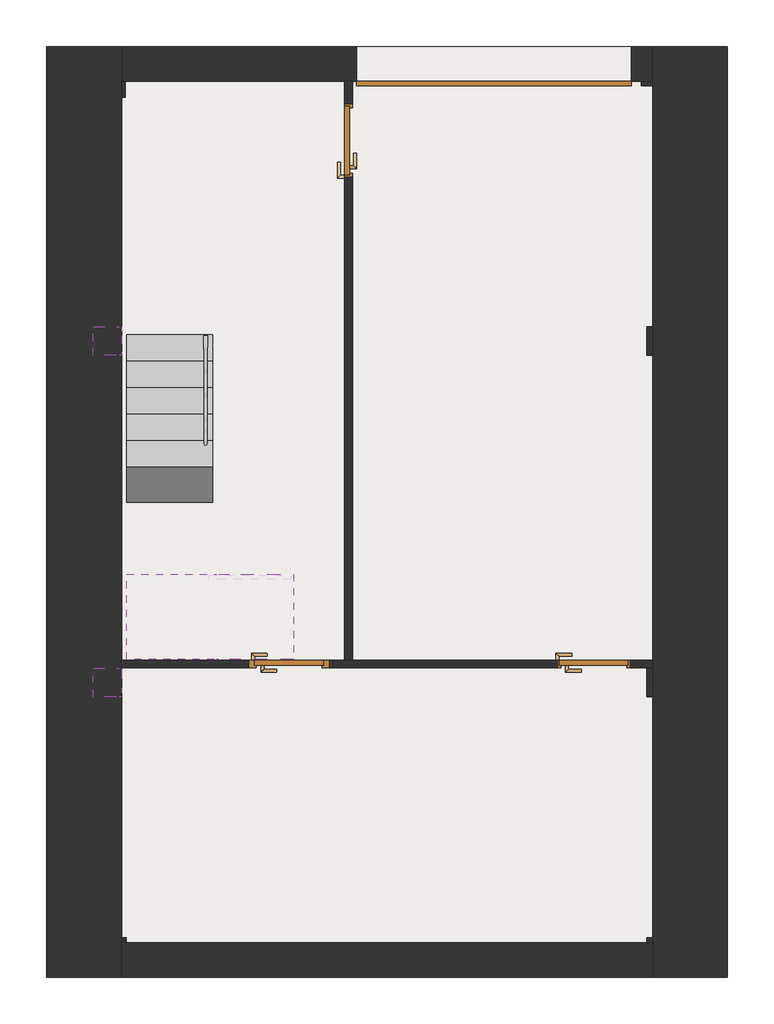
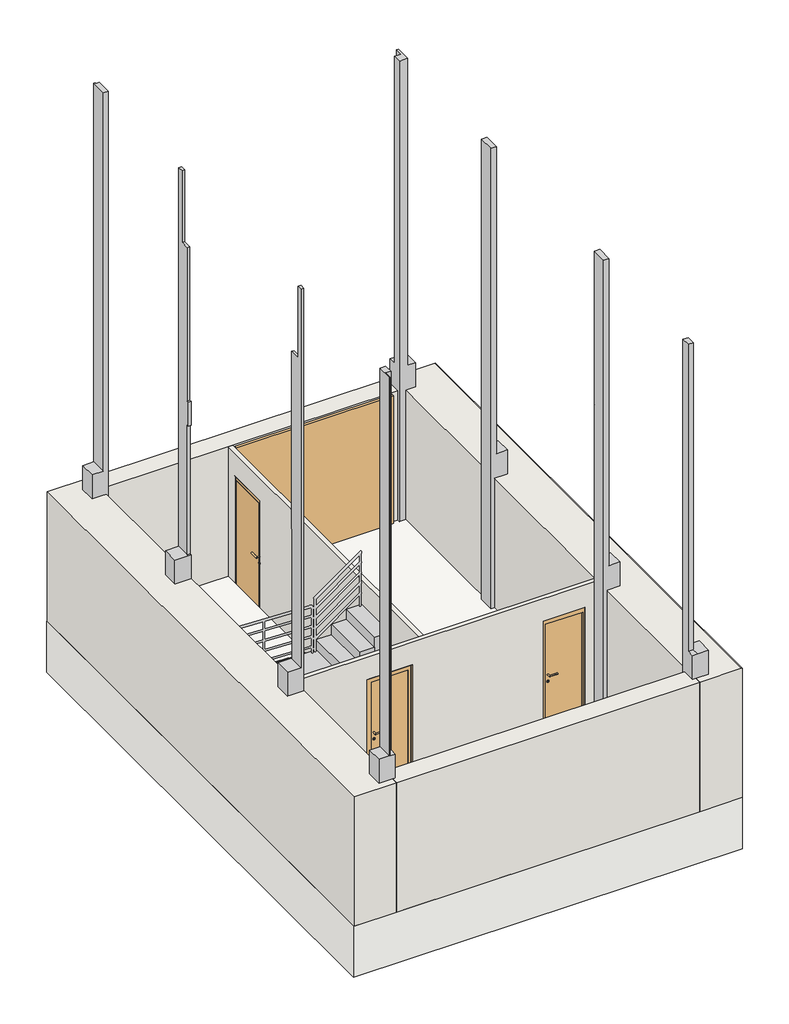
# One storey, part 1 of 2: 8 columns, 6 walls, 4 doors, 2 stair flights, 1 slab.
"""IFC4 building model written with IfcOpenShell, lengths in millimetres."""

from ifc_helpers import new_model, si_unit, frame, origin, origin_with_axes, place, context, project, spatial, polyline, outline, extrude, faceted_brep, transform, mapped, element, save
from components import door_2435_x_1981mm_4eedffcc, door_72_5_x_203_cm_b813763c

model = new_model("IFC4")

# Units and contexts
model_context = context("Model", 3, world=origin())
ifc_project = project(units=[si_unit("LENGTHUNIT", "METRE", prefix="MILLI")], contexts=[model_context])

# Site, building, storey
site = spatial("IfcSite", under=ifc_project)
building = spatial("IfcBuilding", under=site)
storey = spatial("IfcBuildingStorey", under=building, Name="SÓTANO", Elevation=1000.0)

# Columns
placement = place(None, origin())
element("IfcColumn", 1, ObjectType="Pilar rectangular : 300 x 300mm 2", at=placement, inside=storey, context=model_context, shape_type="Brep", body=[
    faceted_brep([(-6960.2380085, -6796.794526, 11400.0), (-6869.4740076, -6796.794526, 11400.0), (-6869.4740076, -6516.7945269, 11400.0), (-6940.7380085, -6516.7945269, 11400.0), (-6940.7380085, -6496.794526, 11400.0), (-6960.2380085, -6496.794526, 11400.0), (-6869.4740076, -6796.794526, 1000.0), (-7169.4740076, -6796.794526, 1000.0), (-7169.4740076, -6496.794526, 1000.0), (-6905.2380085, -6496.794526, 1000.0), (-6905.2380085, -6626.7945269, 1000.0), (-6869.4740076, -6626.7945269, 1000.0), (-7169.4740076, -6496.794526, 4000.0), (-6960.2380085, -6496.794526, 4000.0), (-6940.7380085, -6496.794526, 4000.0), (-6869.4740076, -6496.794526, 4000.0), (-6869.4740076, -6496.794526, 3530.0), (-6905.2380085, -6496.794526, 3530.0), (-7169.4740076, -6796.794526, 4000.0), (-6960.2380085, -6796.794526, 4000.0), (-6869.4740076, -6626.7945269, 3530.0), (-6869.4740076, -6516.7945269, 4000.0), (-6905.2380085, -6626.7945269, 3530.0), (-6940.7380085, -6516.7945269, 4000.0)], [[[0, 1, 2, 3, 4, 5]], [[6, 7, 8, 9, 10, 11]], [[9, 8, 12, 13, 5, 4, 14, 15, 16, 17]], [[8, 7, 18, 12]], [[7, 6, 1, 0, 19, 18]], [[1, 6, 11, 20, 16, 15, 21, 2]], [[19, 0, 5, 13]], [[18, 19, 13, 12]], [[11, 10, 22, 20]], [[23, 3, 2, 21]], [[23, 21, 15, 14]], [[22, 10, 9, 17]], [[20, 22, 17, 16]], [[3, 23, 14, 4]]]),
])
element("IfcColumn", 2, ObjectType="Pilar rectangular : 300 x 300mm 2", at=placement, inside=storey, context=model_context, shape_type="Brep", body=[
    faceted_brep([(-6960.2380085, -9220.2061626, 11400.0), (-6960.2380085, -9317.7974399, 11400.0), (-6960.2380085, -9318.4505332, 11400.0), (-6909.4740076, -9318.4505332, 11400.0), (-6909.4740076, -9220.2061626, 11400.0), (-6960.2380085, -9220.2061626, 4000.0), (-6909.4740076, -9220.2061626, 3530.0), (-7209.4740076, -9220.2061626, 3530.0), (-7209.4740076, -9220.2061626, 4000.0), (-7209.4740076, -9520.2061626, 4000.0), (-7209.4740076, -9520.2061626, 3530.0), (-6909.4740076, -9482.9701634, 7000.0), (-6909.4740076, -9520.2061626, 7000.0), (-6909.4740076, -9520.2061626, 6530.0), (-6909.4740076, -9488.9701632, 6530.0), (-6909.4740076, -9488.9701632, 4000.0), (-6909.4740076, -9520.2061626, 4000.0), (-6909.4740076, -9520.2061626, 3530.0), (-6909.4740076, -9318.4505332, 10000.0), (-6909.4740076, -9482.9701634, 10000.0), (-6960.2380085, -9482.9701634, 7000.0), (-6960.2380085, -9520.2061626, 7000.0), (-6960.2380085, -9488.9701632, 4000.0), (-6960.2380085, -9488.9701632, 6530.0), (-6960.2380085, -9520.2061626, 4000.0), (-6960.2380085, -9520.2061626, 6530.0), (-6960.2380085, -9482.9701634, 10000.0), (-6960.2380085, -9318.4505332, 10000.0)], [[[0, 1, 2, 3, 4]], [[5, 0, 4, 6, 7, 8]], [[9, 8, 7, 10]], [[11, 12, 13, 14, 15, 16, 17, 6, 4, 3, 18, 19]], [[12, 11, 20, 21]], [[22, 15, 14, 23]], [[15, 22, 24, 16]], [[22, 23, 25, 21, 20, 26, 27, 2, 1, 0, 5]], [[5, 8, 9, 24, 22]], [[27, 18, 3, 2]], [[18, 27, 26, 19]], [[20, 11, 19, 26]], [[12, 21, 25, 13]], [[16, 24, 9, 10, 17]], [[23, 14, 13, 25]], [[7, 6, 17, 10]]]),
])
element("IfcColumn", 3, ObjectType="Pilar rectangular : 300 x 300mm 2", at=placement, inside=storey, context=model_context, shape_type="Brep", body=[
    faceted_brep([(-6909.4740076, -13129.734164, 11400.0), (-6909.4740076, -13040.2974399, 11400.0), (-6960.2380085, -13040.2974399, 11400.0), (-6960.2380085, -13129.734164, 11400.0), (-6960.2380085, -12829.734164, 7000.0), (-6909.4740076, -12829.734164, 7000.0), (-6909.4740076, -12829.734164, 6530.0), (-6960.2380085, -12829.734164, 6530.0), (-7209.4740076, -13129.734164, 4000.0), (-7209.4740076, -12829.734164, 4000.0), (-7209.4740076, -12829.734164, 3530.0), (-7209.4740076, -13129.734164, 3530.0), (-6960.2380085, -13129.734164, 4000.0), (-6909.4740076, -13129.734164, 3530.0), (-6909.4740076, -12829.734164, 3530.0), (-6909.4740076, -12829.734164, 4000.0), (-6909.4740076, -12839.9701634, 4000.0), (-6909.4740076, -12839.9701634, 6530.0), (-6909.4740076, -12830.9701634, 7000.0), (-6909.4740076, -12830.9701634, 10000.0), (-6909.4740076, -13040.2974399, 10000.0), (-6960.2380085, -13040.2974399, 10000.0), (-6960.2380085, -12830.9701634, 10000.0), (-6960.2380085, -12830.9701634, 7000.0), (-6960.2380085, -12839.9701634, 6530.0), (-6960.2380085, -12839.9701634, 4000.0), (-6960.2380085, -12829.734164, 4000.0)], [[[0, 1, 2, 3]], [[4, 5, 6, 7]], [[8, 9, 10, 11]], [[3, 12, 8, 11, 13, 0]], [[1, 0, 13, 14, 15, 16, 17, 6, 5, 18, 19, 20]], [[12, 3, 2, 21, 22, 23, 4, 7, 24, 25]], [[8, 12, 25, 26, 9]], [[21, 20, 19, 22]], [[19, 18, 23, 22]], [[18, 5, 4, 23]], [[16, 25, 24, 17]], [[25, 16, 15, 26]], [[20, 21, 2, 1]], [[17, 24, 7, 6]], [[9, 26, 15, 14, 10]], [[10, 14, 13, 11]]]),
])
element("IfcColumn", 4, ObjectType="Pilar rectangular : 300 x 300mm 2", at=placement, inside=storey, context=model_context, shape_type="Brep", body=[
    faceted_brep([(-1359.1530766, -13129.734164, 10000.0), (-1259.1530766, -13129.734164, 10000.0), (-1259.1530766, -12830.9701634, 10000.0), (-1359.1530766, -12830.9701634, 10000.0), (-1359.1530766, -13129.734164, 1000.0), (-1359.1530766, -12829.734164, 1000.0), (-1294.1530766, -12829.734164, 1000.0), (-1294.1530766, -13129.734164, 1000.0), (-1259.1530766, -12829.734164, 4000.0), (-1059.1530766, -12829.734164, 4000.0), (-1059.1530766, -12829.734164, 3530.0), (-1294.1530766, -12829.734164, 3530.0), (-1359.1530766, -12829.734164, 7000.0), (-1259.1530766, -12829.734164, 7000.0), (-1359.1530766, -12830.9701634, 7000.0), (-1294.1530766, -13129.734164, 3530.0), (-1059.1530766, -13129.734164, 3530.0), (-1059.1530766, -13129.734164, 4000.0), (-1259.1530766, -13129.734164, 4000.0), (-1259.1530766, -12830.9701634, 7000.0)], [[[0, 1, 2, 3]], [[4, 5, 6, 7]], [[8, 9, 10, 11, 6, 5, 12, 13]], [[5, 4, 0, 3, 14, 12]], [[0, 4, 7, 15, 16, 17, 18, 1]], [[9, 17, 16, 10]], [[18, 8, 13, 19, 2, 1]], [[8, 18, 17, 9]], [[7, 6, 11, 15]], [[19, 14, 3, 2]], [[14, 19, 13, 12]], [[15, 11, 10, 16]]]),
])
element("IfcColumn", 5, ObjectType="Pilar rectangular : 300 x 300mm 2", at=placement, inside=storey, context=model_context, shape_type="SweptSolid", body=[
    extrude(outline(polyline([(10000.0, -1359.1530766), (1000.0, -1359.1530766), (1000.0, -1294.1530766), (3530.0, -1294.1530766), (3530.0, -1059.1530766), (4000.0, -1059.1530766), (4000.0, -1259.1530766), (10000.0, -1259.1530766), (10000.0, -1359.1530766)])), frame((0.0, -9520.2061626, 0.0), z_axis=(0.0, 1.0, 0.0), x_axis=(0.0, 0.0, 1.0)), (0.0, 0.0, 1.0), 300.0),
])
element("IfcColumn", 6, ObjectType="Pilar rectangular : 300 x 300mm 2", at=placement, inside=storey, context=model_context, shape_type="Brep", body=[
    faceted_brep([(-1259.1530766, -15673.3817995, 10000.0), (-1359.1530766, -15673.3817995, 10000.0), (-1359.1530766, -15838.1457931, 10000.0), (-1259.1530766, -15838.1457931, 10000.0), (-1359.1530766, -15673.3817995, 1000.0), (-1294.1530766, -15673.3817995, 1000.0), (-1294.1530766, -15728.1457931, 1000.0), (-1359.1530766, -15728.1457931, 1000.0), (-1259.1530766, -15673.3817995, 4000.0), (-1059.1530766, -15673.3817995, 4000.0), (-1059.1530766, -15673.3817995, 3530.0), (-1294.1530766, -15673.3817995, 3530.0), (-1359.1530766, -15728.1457931, 3530.0), (-1359.1530766, -15973.3817995, 3530.0), (-1359.1530766, -15973.3817995, 4000.0), (-1359.1530766, -15838.1457931, 4000.0), (-1259.1530766, -15973.3817995, 4000.0), (-1294.1530766, -15973.3817995, 3530.0), (-1059.1530766, -15973.3817995, 3530.0), (-1059.1530766, -15973.3817995, 4000.0), (-1259.1530766, -15838.1457931, 4000.0), (-1294.1530766, -15728.1457931, 3530.0)], [[[0, 1, 2, 3]], [[4, 5, 6, 7]], [[4, 1, 0, 8, 9, 10, 11, 5]], [[1, 4, 7, 12, 13, 14, 15, 2]], [[16, 14, 13, 17, 18, 19]], [[9, 19, 18, 10]], [[8, 0, 3, 20]], [[9, 8, 20, 16, 19]], [[2, 15, 20, 3]], [[15, 14, 16, 20]], [[5, 11, 21, 6]], [[21, 12, 7, 6]], [[12, 21, 17, 13]], [[11, 10, 18, 17, 21]]]),
])
element("IfcColumn", 7, ObjectType="Pilar rectangular : 300 x 300mm 2", at=placement, inside=storey, context=model_context, shape_type="Brep", body=[
    faceted_brep([(-1414.4496163, -6676.794526, 10000.0), (-1259.1530766, -6676.794526, 10000.0), (-1259.1530766, -6376.794526, 10000.0), (-1290.7380085, -6376.794526, 10000.0), (-1290.7380085, -6516.7945269, 10000.0), (-1414.4496163, -6516.7945269, 10000.0), (-1294.1530766, -6676.794526, 1000.0), (-1414.4496163, -6676.794526, 1000.0), (-1414.4496163, -6626.7945269, 1000.0), (-1294.1530766, -6626.7945269, 1000.0), (-1294.1530766, -6376.794526, 3530.0), (-1414.4496163, -6376.794526, 3530.0), (-1414.4496163, -6376.794526, 4000.0), (-1290.7380085, -6376.794526, 4000.0), (-1259.1530766, -6376.794526, 4000.0), (-1114.4496163, -6376.794526, 4000.0), (-1114.4496163, -6376.794526, 3530.0), (-1414.4496163, -6516.7945269, 4000.0), (-1414.4496163, -6626.7945269, 3530.0), (-1294.1530766, -6676.794526, 3530.0), (-1114.4496163, -6676.794526, 3530.0), (-1114.4496163, -6676.794526, 4000.0), (-1259.1530766, -6676.794526, 4000.0), (-1294.1530766, -6626.7945269, 3530.0), (-1290.7380085, -6516.7945269, 4000.0)], [[[0, 1, 2, 3, 4, 5]], [[6, 7, 8, 9]], [[10, 11, 12, 13, 3, 2, 14, 15, 16]], [[7, 0, 5, 17, 12, 11, 18, 8]], [[0, 7, 6, 19, 20, 21, 22, 1]], [[15, 21, 20, 16]], [[19, 6, 9, 23]], [[9, 8, 18, 23]], [[1, 22, 14, 2]], [[22, 21, 15, 14]], [[23, 18, 11, 10]], [[10, 16, 20, 19, 23]], [[24, 17, 5, 4]], [[17, 24, 13, 12]], [[24, 4, 3, 13]]]),
])
element("IfcColumn", 8, ObjectType="Pilar rectangular : 300 x 300mm 2", at=placement, inside=storey, context=model_context, shape_type="Brep", body=[
    faceted_brep([(-6859.1530766, -15673.3817995, 11400.0), (-6960.2380085, -15673.3817995, 11400.0), (-6960.2380085, -15973.3817995, 11400.0), (-6953.6530766, -15973.3817995, 11400.0), (-6953.6530766, -15838.1457931, 11400.0), (-6859.1530766, -15838.1457931, 11400.0), (-6859.1530766, -15673.3817995, 1000.0), (-6859.1530766, -15728.1457931, 1000.0), (-6905.2380085, -15728.1457931, 1000.0), (-6905.2380085, -15673.3817995, 1000.0), (-6905.2380085, -15673.3817995, 3530.0), (-7159.1530766, -15673.3817995, 3530.0), (-7159.1530766, -15673.3817995, 4000.0), (-6960.2380085, -15673.3817995, 4000.0), (-7159.1530766, -15973.3817995, 4000.0), (-7159.1530766, -15973.3817995, 3530.0), (-6905.2380085, -15973.3817995, 3530.0), (-6859.1530766, -15973.3817995, 3530.0), (-6859.1530766, -15973.3817995, 4000.0), (-6953.6530766, -15973.3817995, 4000.0), (-6960.2380085, -15973.3817995, 4000.0), (-6859.1530766, -15838.1457931, 4000.0), (-6859.1530766, -15728.1457931, 3530.0), (-6905.2380085, -15728.1457931, 3530.0), (-6953.6530766, -15838.1457931, 4000.0)], [[[0, 1, 2, 3, 4, 5]], [[6, 7, 8, 9]], [[0, 6, 9, 10, 11, 12, 13, 1]], [[14, 12, 11, 15]], [[16, 17, 18, 19, 3, 2, 20, 14, 15]], [[6, 0, 5, 21, 18, 17, 22, 7]], [[8, 7, 22, 23]], [[1, 13, 20, 2]], [[13, 12, 14, 20]], [[9, 8, 23, 10]], [[4, 24, 21, 5]], [[21, 24, 19, 18]], [[23, 22, 17, 16]], [[10, 23, 16, 15, 11]], [[24, 4, 3, 19]]]),
])

# Doors
door_2435_x_1981mm_shape = door_2435_x_1981mm_4eedffcc(model_context)
element("IfcDoor", 9, ObjectType="Puerta elevada articulada : 2435 x 1981mm", at=placement, inside=storey, context=model_context, shape_type="MappedRepresentation", body=[
    mapped(door_2435_x_1981mm_shape, transform((-2972.4530766, -6444.2945269, 1000.0), x_axis=(1.0, 0.0, 0.0), y_axis=(0.0, 1.0, 0.0), z_axis=(0.0, 0.0, 1.0))),
])
door_72_5_x_203_cm_shape = door_72_5_x_203_cm_b813763c(model_context)
element("IfcDoor", 10, ObjectType="Puerta abatible ciega con ventilación : 72.5 x 203 cm", at=placement, inside=storey, context=model_context, shape_type="MappedRepresentation", body=[
    mapped(door_72_5_x_203_cm_shape, transform((-1918.2421366, -12784.734164, 1000.0), x_axis=(-1.0, 0.0, 0.0), y_axis=(0.0, -1.0, 0.0), z_axis=(0.0, 0.0, 1.0))),
])
element("IfcDoor", 11, ObjectType="Puerta abatible ciega con ventilación : 72.5 x 203 cm", at=placement, inside=storey, context=model_context, shape_type="MappedRepresentation", body=[
    mapped(door_72_5_x_203_cm_shape, transform((-4509.4740076, -7253.7945269, 1000.0), x_axis=(0.0, -1.0, 0.0), y_axis=(1.0, 0.0, 0.0), z_axis=(0.0, 0.0, 1.0))),
])
element("IfcDoor", 12, ObjectType="Puerta abatible ciega con ventilación : 72.5 x 203 cm", at=placement, inside=storey, context=model_context, shape_type="MappedRepresentation", body=[
    mapped(door_72_5_x_203_cm_shape, transform((-5137.4740076, -12784.734164, 1000.0), x_axis=(-1.0, 0.0, 0.0), y_axis=(0.0, -1.0, 0.0), z_axis=(0.0, 0.0, 1.0))),
])

# Slab
element("IfcSlab", 13, ObjectType="Losa hormigón", at=placement, inside=storey, context=model_context, shape_type="SweptSolid", body=[
    extrude(outline(polyline([(-508.1530766, -6261.7945269), (-508.1530766, -16093.1457931), (-7701.2380085, -16093.1457931), (-7701.2380085, -6261.7945269), (-508.1530766, -6261.7945269)])), origin_with_axes(), (0.0, 0.0, 1.0), 1000.0),
])

# Stair flights
element("IfcStairFlight", 14, ObjectType="Profundidad estructural 150 mm", at=placement, inside=storey, context=model_context, shape_type="Brep", body=[
    faceted_brep([(-5928.4380085, -11833.734164, 3200.0), (-6853.4380085, -11833.734164, 3200.0), (-6853.4380085, -12733.734164, 3200.0), (-5928.4380085, -12733.734164, 3200.0), (-5928.4380085, -11833.734164, 3050.0), (-6853.4380085, -11833.734164, 3050.0), (-6853.4380085, -12733.734164, 3050.0), (-5928.4380085, -12733.734164, 3050.0), (-5928.4380085, -11833.734164, 3400.0), (-5928.4380085, -12733.734164, 3400.0), (-5880.3682505, -12733.734164, 3400.0), (-5648.4380085, -12733.734164, 3400.0), (-5648.4380085, -11833.734164, 3400.0), (-5880.3682505, -11833.734164, 3400.0), (-5648.4380085, -11833.734164, 3215.6644586), (-5880.3682505, -11833.734164, 3050.0), (-5880.3682505, -12733.734164, 3050.0), (-5648.4380085, -12733.734164, 3215.6644586), (-5368.4380085, -11833.734164, 3600.0), (-5648.4380085, -11833.734164, 3600.0), (-5648.4380085, -12733.734164, 3600.0), (-5368.4380085, -12733.734164, 3600.0), (-5368.4380085, -11833.734164, 3415.6644586), (-5368.4380085, -12733.734164, 3415.6644586), (-5088.4380085, -11833.734164, 3800.0), (-5368.4380085, -11833.734164, 3800.0), (-5368.4380085, -12733.734164, 3800.0), (-5088.4380085, -12733.734164, 3800.0), (-5088.4380085, -11833.734164, 3615.6644586), (-5088.4380085, -12733.734164, 3615.6644586)], [[[0, 1, 2, 3]], [[1, 0, 4, 5]], [[2, 1, 5, 6]], [[3, 2, 6, 7]], [[8, 9, 10, 11, 12, 13]], [[0, 8, 13, 12, 14, 15, 4]], [[0, 3, 9, 8]], [[9, 3, 7, 16, 17, 11, 10]], [[18, 19, 20, 21]], [[19, 18, 22, 14, 12]], [[12, 11, 20, 19]], [[21, 20, 11, 17, 23]], [[24, 25, 26, 27]], [[25, 24, 28, 22, 18]], [[18, 21, 26, 25]], [[27, 26, 21, 23, 29]], [[24, 27, 29, 28]], [[15, 16, 7, 6, 5, 4]], [[16, 15, 14, 22, 28, 29, 23, 17]]]),
])
element("IfcStairFlight", 15, ObjectType="Profundidad estructural 150 mm", at=placement, inside=storey, context=model_context, shape_type="Brep", body=[
    faceted_brep([(-5946.7125034, -9585.368546, 1220.0), (-5946.7125034, -9305.368546, 1220.0), (-6854.2125034, -9305.368546, 1220.0), (-6854.2125034, -9585.368546, 1220.0), (-5946.7125034, -9585.368546, 1029.3837063), (-5946.7125034, -9548.0082023, 1000.0), (-5946.7125034, -9305.368546, 1000.0), (-6854.2125034, -9305.368546, 1000.0), (-6854.2125034, -9548.0082023, 1000.0), (-6854.2125034, -9585.368546, 1029.3837063), (-5946.7125034, -9865.368546, 1440.0), (-5946.7125034, -9585.368546, 1440.0), (-6854.2125034, -9585.368546, 1440.0), (-6854.2125034, -9865.368546, 1440.0), (-5946.7125034, -9865.368546, 1249.602177), (-6854.2125034, -9865.368546, 1249.602177), (-5946.7125034, -10145.368546, 1660.0), (-5946.7125034, -9865.368546, 1660.0), (-6854.2125034, -9865.368546, 1660.0), (-6854.2125034, -10145.368546, 1660.0), (-5946.7125034, -10145.368546, 1469.8206477), (-6854.2125034, -10145.368546, 1469.8206477), (-5946.7125034, -10425.368546, 1880.0), (-5946.7125034, -10145.368546, 1880.0), (-6854.2125034, -10145.368546, 1880.0), (-6854.2125034, -10425.368546, 1880.0), (-5946.7125034, -10425.368546, 1690.0391184), (-6854.2125034, -10425.368546, 1690.0391184), (-5946.7125034, -10705.368546, 2100.0), (-5946.7125034, -10425.368546, 2100.0), (-6854.2125034, -10425.368546, 2100.0), (-6854.2125034, -10705.368546, 2100.0), (-5946.7125034, -10705.368546, 1910.2575891), (-6854.2125034, -10705.368546, 1910.2575891), (-5946.7125034, -10985.368546, 2320.0), (-5946.7125034, -10705.368546, 2320.0), (-6854.2125034, -10705.368546, 2320.0), (-6854.2125034, -10985.368546, 2320.0), (-5946.7125034, -10985.368546, 2130.4760598), (-6854.2125034, -10985.368546, 2130.4760598), (-5946.7125034, -11265.368546, 2540.0), (-5946.7125034, -10985.368546, 2540.0), (-6854.2125034, -10985.368546, 2540.0), (-6854.2125034, -11265.368546, 2540.0), (-5946.7125034, -11265.368546, 2350.6945305), (-6854.2125034, -11265.368546, 2350.6945305), (-5946.7125034, -11545.368546, 2760.0), (-5946.7125034, -11265.368546, 2760.0), (-6854.2125034, -11265.368546, 2760.0), (-6854.2125034, -11545.368546, 2760.0), (-5946.7125034, -11545.368546, 2570.9130012), (-6854.2125034, -11545.368546, 2570.9130012), (-5946.7125034, -11822.868546, 2980.0), (-5946.7125034, -11545.368546, 2980.0), (-6854.2125034, -11545.368546, 2980.0), (-6854.2125034, -11822.868546, 2980.0), (-5946.7125034, -11822.868546, 2789.1652356), (-6854.2125034, -11822.868546, 2789.1652356)], [[[0, 1, 2, 3]], [[1, 0, 4, 5, 6]], [[2, 1, 6, 7]], [[3, 2, 7, 8, 9]], [[10, 11, 12, 13]], [[11, 10, 14, 4, 0]], [[0, 3, 12, 11]], [[13, 12, 3, 9, 15]], [[16, 17, 18, 19]], [[17, 16, 20, 14, 10]], [[10, 13, 18, 17]], [[19, 18, 13, 15, 21]], [[22, 23, 24, 25]], [[23, 22, 26, 20, 16]], [[16, 19, 24, 23]], [[25, 24, 19, 21, 27]], [[28, 29, 30, 31]], [[29, 28, 32, 26, 22]], [[22, 25, 30, 29]], [[31, 30, 25, 27, 33]], [[34, 35, 36, 37]], [[35, 34, 38, 32, 28]], [[28, 31, 36, 35]], [[37, 36, 31, 33, 39]], [[40, 41, 42, 43]], [[41, 40, 44, 38, 34]], [[34, 37, 42, 41]], [[43, 42, 37, 39, 45]], [[46, 47, 48, 49]], [[47, 46, 50, 44, 40]], [[40, 43, 48, 47]], [[49, 48, 43, 45, 51]], [[52, 53, 54, 55]], [[53, 52, 56, 50, 46]], [[46, 49, 54, 53]], [[55, 54, 49, 51, 57]], [[52, 55, 57, 56]], [[7, 6, 5, 8]], [[8, 5, 4, 14, 20, 26, 32, 38, 44, 50, 56, 57, 51, 45, 39, 33, 27, 21, 15, 9]]]),
])

# Walls
element("IfcWall", 16, ObjectType="Medianera sótano", at=placement, inside=storey, context=model_context, shape_type="Brep", body=[
    faceted_brep([(-7691.2380085, -6261.7945269, 1000.0), (-7691.2380085, -16093.1457931, 1000.0), (-7691.2380085, -16093.1457931, 3530.0), (-7691.2380085, -6261.7945269, 3530.0), (-6905.2380085, -6261.7945269, 1000.0), (-6905.2380085, -6261.7945269, 3530.0), (-6905.2380085, -6626.7945269, 3530.0), (-6905.2380085, -12744.734164, 3530.0), (-6905.2380085, -12824.734164, 3530.0), (-6905.2380085, -15673.3817995, 3530.0), (-6905.2380085, -15728.1457931, 3530.0), (-6905.2380085, -16093.1457931, 3530.0), (-6905.2380085, -16093.1457931, 1000.0), (-6905.2380085, -15728.1457931, 1000.0), (-6905.2380085, -15673.3817995, 1000.0), (-6905.2380085, -12824.734164, 1000.0), (-6905.2380085, -12744.734164, 1000.0), (-6905.2380085, -6626.7945269, 1000.0)], [[[0, 1, 2, 3]], [[4, 5, 6, 7, 8, 9, 10, 11, 12, 13, 14, 15, 16, 17]], [[1, 0, 4, 17, 16, 15, 14, 13, 12]], [[0, 3, 5, 4]], [[2, 1, 12, 11]], [[3, 2, 11, 10, 9, 8, 7, 6, 5]]]),
])
element("IfcWall", 17, ObjectType="Medianera sótano", at=placement, inside=storey, context=model_context, shape_type="Brep", body=[
    faceted_brep([(-508.1530766, -16093.1457931, 1000.0), (-508.1530766, -6261.7945269, 1000.0), (-508.1530766, -6261.7945269, 3530.0), (-508.1530766, -16093.1457931, 3530.0), (-1294.1530766, -16093.1457931, 1000.0), (-1294.1530766, -16093.1457931, 3530.0), (-1294.1530766, -15728.1457931, 3530.0), (-1294.1530766, -15673.3817995, 3530.0), (-1294.1530766, -13129.734164, 3530.0), (-1294.1530766, -12829.734164, 3530.0), (-1294.1530766, -12824.734164, 3530.0), (-1294.1530766, -12744.734164, 3530.0), (-1294.1530766, -9520.2061626, 3530.0), (-1294.1530766, -9220.2061626, 3530.0), (-1294.1530766, -6676.794526, 3530.0), (-1294.1530766, -6626.7945269, 3530.0), (-1294.1530766, -6261.7945269, 3530.0), (-1294.1530766, -6261.7945269, 1000.0), (-1294.1530766, -6626.7945269, 1000.0), (-1294.1530766, -6676.794526, 1000.0), (-1294.1530766, -9220.2061626, 1000.0), (-1294.1530766, -9520.2061626, 1000.0), (-1294.1530766, -12744.734164, 1000.0), (-1294.1530766, -12824.734164, 1000.0), (-1294.1530766, -12829.734164, 1000.0), (-1294.1530766, -13129.734164, 1000.0), (-1294.1530766, -15673.3817995, 1000.0), (-1294.1530766, -15728.1457931, 1000.0), (-518.1530766, -6261.7945269, 3530.0), (-518.1530766, -16093.1457931, 3530.0)], [[[0, 1, 2, 3]], [[4, 5, 6, 7, 8, 9, 10, 11, 12, 13, 14, 15, 16, 17, 18, 19, 20, 21, 22, 23, 24, 25, 26, 27]], [[1, 0, 4, 27, 26, 25, 24, 23, 22, 21, 20, 19, 18, 17]], [[3, 2, 28, 29]], [[2, 1, 17, 16, 28]], [[28, 16, 15, 14, 13, 12, 11, 10, 9, 8, 7, 6, 5, 29]], [[0, 3, 29, 5, 4]]]),
])
element("IfcWall", 18, ObjectType="Muro Sótano", at=placement, inside=storey, context=model_context, shape_type="Brep", body=[
    faceted_brep([(-6905.2380085, -16093.1457931, 1000.0), (-1294.1530766, -16093.1457931, 1000.0), (-1294.1530766, -16093.1457931, 3530.0), (-6905.2380085, -16093.1457931, 3530.0), (-6905.2380085, -15728.1457931, 1000.0), (-6905.2380085, -15728.1457931, 3530.0), (-6859.1530766, -15728.1457931, 3530.0), (-1359.1530766, -15728.1457931, 3530.0), (-1294.1530766, -15728.1457931, 3530.0), (-1294.1530766, -15728.1457931, 1000.0), (-1359.1530766, -15728.1457931, 1000.0), (-6859.1530766, -15728.1457931, 1000.0)], [[[0, 1, 2, 3]], [[4, 5, 6, 7, 8, 9, 10, 11]], [[1, 0, 4, 11, 10, 9]], [[3, 2, 8, 7, 6, 5]], [[2, 1, 9, 8]], [[0, 3, 5, 4]]]),
])
element("IfcWall", 19, ObjectType="Muro Sótano", at=placement, inside=storey, context=model_context, shape_type="Brep", body=[
    faceted_brep([(-1294.1530766, -6626.7945269, 3530.0), (-1414.4496163, -6626.7945269, 3530.0), (-4469.4740076, -6626.7945269, 3530.0), (-4549.4740076, -6626.7945269, 3530.0), (-6869.4740076, -6626.7945269, 3530.0), (-6905.2380085, -6626.7945269, 3530.0), (-6905.2380085, -6626.7945269, 1000.0), (-6869.4740076, -6626.7945269, 1000.0), (-4549.4740076, -6626.7945269, 1000.0), (-4469.4740076, -6626.7945269, 1000.0), (-4422.4530766, -6626.7945269, 1000.0), (-4422.4530766, -6626.7945269, 3500.0), (-1522.4530766, -6626.7945269, 3500.0), (-1522.4530766, -6626.7945269, 1000.0), (-1414.4496163, -6626.7945269, 1000.0), (-1294.1530766, -6626.7945269, 1000.0), (-6905.2380085, -6261.7945269, 3530.0), (-1294.1530766, -6261.7945269, 3530.0), (-1294.1530766, -6261.7945269, 1000.0), (-1522.4530766, -6261.7945269, 1000.0), (-1522.4530766, -6261.7945269, 3500.0), (-4422.4530766, -6261.7945269, 3500.0), (-4422.4530766, -6261.7945269, 1000.0), (-6905.2380085, -6261.7945269, 1000.0), (-6905.2380085, -6496.794526, 1000.0), (-6905.2380085, -6496.794526, 3530.0)], [[[0, 1, 2, 3, 4, 5, 6, 7, 8, 9, 10, 11, 12, 13, 14, 15]], [[16, 17, 18, 19, 20, 21, 22, 23]], [[6, 24, 23, 22, 10, 9, 8, 7]], [[18, 15, 14, 13, 19]], [[12, 20, 19, 13]], [[20, 12, 11, 21]], [[21, 11, 10, 22]], [[5, 4, 3, 2, 1, 0, 17, 16, 25]], [[6, 5, 25, 16, 23, 24]], [[0, 15, 18, 17]]]),
])
element("IfcWall", 20, ObjectType="Tabique cartón-yeso", at=placement, inside=storey, context=model_context, shape_type="Brep", body=[
    faceted_brep([(-1294.1530766, -12824.734164, 3530.0), (-6905.2380085, -12824.734164, 3530.0), (-6905.2380085, -12824.734164, 1000.0), (-5523.3911063, -12824.734164, 1000.0), (-5523.3911063, -12824.734164, 3090.0), (-4749.9740076, -12824.734164, 3090.0), (-4749.9740076, -12824.734164, 1000.0), (-2304.1592353, -12824.734164, 1000.0), (-2304.1592353, -12824.734164, 3090.0), (-1530.7421366, -12824.734164, 3090.0), (-1530.7421366, -12824.734164, 1000.0), (-1294.1530766, -12824.734164, 1000.0), (-6905.2380085, -12744.734164, 3530.0), (-4549.4740076, -12744.734164, 3530.0), (-4469.4740076, -12744.734164, 3530.0), (-1294.1530766, -12744.734164, 3530.0), (-1294.1530766, -12744.734164, 1000.0), (-1530.7421366, -12744.734164, 1000.0), (-1530.7421366, -12744.734164, 3090.0), (-2304.1592353, -12744.734164, 3090.0), (-2304.1592353, -12744.734164, 1000.0), (-4469.4740076, -12744.734164, 1000.0), (-4549.4740076, -12744.734164, 1000.0), (-4749.9740076, -12744.734164, 1000.0), (-4749.9740076, -12744.734164, 3090.0), (-5523.3911063, -12744.734164, 3090.0), (-5523.3911063, -12744.734164, 1000.0), (-6905.2380085, -12744.734164, 1000.0)], [[[0, 1, 2, 3, 4, 5, 6, 7, 8, 9, 10, 11]], [[12, 13, 14, 15, 16, 17, 18, 19, 20, 21, 22, 23, 24, 25, 26, 27]], [[27, 26, 3, 2]], [[6, 23, 22, 21, 20, 7]], [[16, 11, 10, 17]], [[1, 0, 15, 14, 13, 12]], [[6, 5, 24, 23]], [[25, 4, 3, 26]], [[4, 25, 24, 5]], [[9, 18, 17, 10]], [[19, 8, 7, 20]], [[18, 9, 8, 19]], [[0, 11, 16, 15]], [[2, 1, 12, 27]]]),
])
element("IfcWall", 21, ObjectType="Tabique cartón-yeso", at=placement, inside=storey, context=model_context, shape_type="SweptSolid", body=[
    extrude(outline(polyline([(-6626.7945269, 3530.0), (-6626.7945269, 1000.0), (-6866.2945269, 1000.0), (-6866.2945269, 3090.0), (-7639.7116256, 3090.0), (-7639.7116256, 1000.0), (-12744.734164, 1000.0), (-12744.734164, 3530.0), (-6626.7945269, 3530.0)])), frame((-4549.4740076, 0.0, 0.0), z_axis=(1.0, 0.0, 0.0), x_axis=(0.0, 1.0, 0.0)), (0.0, 0.0, 1.0), 80.0),
])

save(model, "model.ifc")
